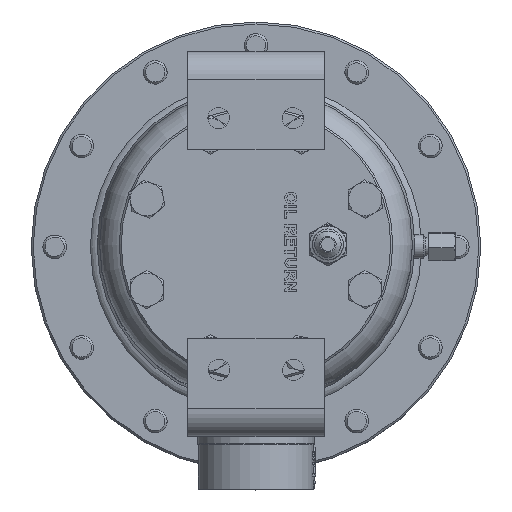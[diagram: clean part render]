
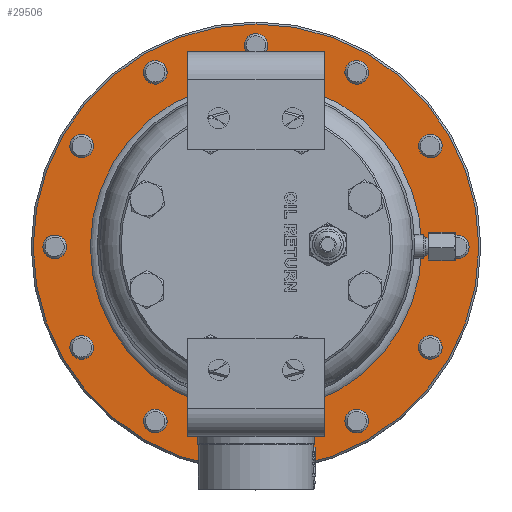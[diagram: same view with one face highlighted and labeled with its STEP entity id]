
A CAD part, top view. The second image highlights one B-rep face of the part: STEP entity #29506.
In plain terms, the highlighted planar face has unit normal (0, 0, 1).
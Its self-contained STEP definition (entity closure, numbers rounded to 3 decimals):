
#6245=PLANE('',#31358);
#7459=FACE_BOUND('',#9610,.T.);
#7460=FACE_BOUND('',#9611,.T.);
#7461=FACE_BOUND('',#9612,.T.);
#7462=FACE_BOUND('',#9613,.T.);
#7463=FACE_BOUND('',#9614,.T.);
#7464=FACE_BOUND('',#9615,.T.);
#7465=FACE_BOUND('',#9616,.T.);
#7466=FACE_BOUND('',#9617,.T.);
#7467=FACE_BOUND('',#9618,.T.);
#7468=FACE_BOUND('',#9619,.T.);
#7469=FACE_BOUND('',#9620,.T.);
#7470=FACE_BOUND('',#9621,.T.);
#7471=FACE_BOUND('',#9622,.T.);
#7767=FACE_OUTER_BOUND('',#9609,.T.);
#9609=EDGE_LOOP('',(#20180));
#9610=EDGE_LOOP('',(#20181));
#9611=EDGE_LOOP('',(#20182));
#9612=EDGE_LOOP('',(#20183));
#9613=EDGE_LOOP('',(#20184));
#9614=EDGE_LOOP('',(#20185));
#9615=EDGE_LOOP('',(#20186));
#9616=EDGE_LOOP('',(#20187));
#9617=EDGE_LOOP('',(#20188));
#9618=EDGE_LOOP('',(#20189));
#9619=EDGE_LOOP('',(#20190));
#9620=EDGE_LOOP('',(#20191));
#9621=EDGE_LOOP('',(#20192));
#9622=EDGE_LOOP('',(#20193));
#11746=CIRCLE('',#31359,114.);
#11747=CIRCLE('',#31360,6.);
#11748=CIRCLE('',#31361,6.);
#11749=CIRCLE('',#31362,6.);
#11750=CIRCLE('',#31363,6.);
#11751=CIRCLE('',#31364,6.);
#11752=CIRCLE('',#31365,6.);
#11753=CIRCLE('',#31366,6.);
#11754=CIRCLE('',#31367,6.);
#11755=CIRCLE('',#31368,6.);
#11756=CIRCLE('',#31369,6.);
#11757=CIRCLE('',#31370,6.);
#11758=CIRCLE('',#31371,6.);
#11759=CIRCLE('',#31372,84.767);
#12571=VERTEX_POINT('',#41559);
#12572=VERTEX_POINT('',#41561);
#12573=VERTEX_POINT('',#41563);
#12574=VERTEX_POINT('',#41565);
#12575=VERTEX_POINT('',#41567);
#12576=VERTEX_POINT('',#41569);
#12577=VERTEX_POINT('',#41571);
#12578=VERTEX_POINT('',#41573);
#12579=VERTEX_POINT('',#41575);
#12580=VERTEX_POINT('',#41577);
#12581=VERTEX_POINT('',#41579);
#12582=VERTEX_POINT('',#41581);
#12583=VERTEX_POINT('',#41583);
#12584=VERTEX_POINT('',#41585);
#15604=EDGE_CURVE('',#12571,#12571,#11746,.T.);
#15605=EDGE_CURVE('',#12572,#12572,#11747,.T.);
#15606=EDGE_CURVE('',#12573,#12573,#11748,.T.);
#15607=EDGE_CURVE('',#12574,#12574,#11749,.T.);
#15608=EDGE_CURVE('',#12575,#12575,#11750,.T.);
#15609=EDGE_CURVE('',#12576,#12576,#11751,.T.);
#15610=EDGE_CURVE('',#12577,#12577,#11752,.T.);
#15611=EDGE_CURVE('',#12578,#12578,#11753,.T.);
#15612=EDGE_CURVE('',#12579,#12579,#11754,.T.);
#15613=EDGE_CURVE('',#12580,#12580,#11755,.T.);
#15614=EDGE_CURVE('',#12581,#12581,#11756,.T.);
#15615=EDGE_CURVE('',#12582,#12582,#11757,.T.);
#15616=EDGE_CURVE('',#12583,#12583,#11758,.T.);
#15617=EDGE_CURVE('',#12584,#12584,#11759,.T.);
#20180=ORIENTED_EDGE('',*,*,#15604,.F.);
#20181=ORIENTED_EDGE('',*,*,#15605,.T.);
#20182=ORIENTED_EDGE('',*,*,#15606,.T.);
#20183=ORIENTED_EDGE('',*,*,#15607,.T.);
#20184=ORIENTED_EDGE('',*,*,#15608,.T.);
#20185=ORIENTED_EDGE('',*,*,#15609,.T.);
#20186=ORIENTED_EDGE('',*,*,#15610,.T.);
#20187=ORIENTED_EDGE('',*,*,#15611,.T.);
#20188=ORIENTED_EDGE('',*,*,#15612,.T.);
#20189=ORIENTED_EDGE('',*,*,#15613,.T.);
#20190=ORIENTED_EDGE('',*,*,#15614,.T.);
#20191=ORIENTED_EDGE('',*,*,#15615,.T.);
#20192=ORIENTED_EDGE('',*,*,#15616,.T.);
#20193=ORIENTED_EDGE('',*,*,#15617,.T.);
#29506=ADVANCED_FACE('',(#7767,#7459,#7460,#7461,#7462,#7463,#7464,#7465,
#7466,#7467,#7468,#7469,#7470,#7471),#6245,.F.);
#31358=AXIS2_PLACEMENT_3D('',#41558,#34088,#34089);
#31359=AXIS2_PLACEMENT_3D('',#41560,#34090,#34091);
#31360=AXIS2_PLACEMENT_3D('',#41562,#34092,#34093);
#31361=AXIS2_PLACEMENT_3D('',#41564,#34094,#34095);
#31362=AXIS2_PLACEMENT_3D('',#41566,#34096,#34097);
#31363=AXIS2_PLACEMENT_3D('',#41568,#34098,#34099);
#31364=AXIS2_PLACEMENT_3D('',#41570,#34100,#34101);
#31365=AXIS2_PLACEMENT_3D('',#41572,#34102,#34103);
#31366=AXIS2_PLACEMENT_3D('',#41574,#34104,#34105);
#31367=AXIS2_PLACEMENT_3D('',#41576,#34106,#34107);
#31368=AXIS2_PLACEMENT_3D('',#41578,#34108,#34109);
#31369=AXIS2_PLACEMENT_3D('',#41580,#34110,#34111);
#31370=AXIS2_PLACEMENT_3D('',#41582,#34112,#34113);
#31371=AXIS2_PLACEMENT_3D('',#41584,#34114,#34115);
#31372=AXIS2_PLACEMENT_3D('',#41586,#34116,#34117);
#34088=DIRECTION('center_axis',(0.,0.,
-1.));
#34089=DIRECTION('ref_axis',(1.,0.,0.));
#34090=DIRECTION('center_axis',(0.,0.,
-1.));
#34091=DIRECTION('ref_axis',(1.,0.,0.));
#34092=DIRECTION('center_axis',(0.,0.,
-1.));
#34093=DIRECTION('ref_axis',(1.,0.,0.));
#34094=DIRECTION('center_axis',(0.,0.,
-1.));
#34095=DIRECTION('ref_axis',(0.866,-0.5,0.));
#34096=DIRECTION('center_axis',(0.,0.,
-1.));
#34097=DIRECTION('ref_axis',(0.5,-0.866,0.));
#34098=DIRECTION('center_axis',(0.,0.,
-1.));
#34099=DIRECTION('ref_axis',(0.,-1.,0.));
#34100=DIRECTION('center_axis',(0.,0.,
-1.));
#34101=DIRECTION('ref_axis',(-0.5,-0.866,0.));
#34102=DIRECTION('center_axis',(0.,0.,
-1.));
#34103=DIRECTION('ref_axis',(-0.866,-0.5,0.));
#34104=DIRECTION('center_axis',(0.,0.,
-1.));
#34105=DIRECTION('ref_axis',(-1.,0.,0.));
#34106=DIRECTION('center_axis',(0.,0.,
-1.));
#34107=DIRECTION('ref_axis',(-0.866,0.5,0.));
#34108=DIRECTION('center_axis',(0.,0.,
-1.));
#34109=DIRECTION('ref_axis',(-0.5,0.866,0.));
#34110=DIRECTION('center_axis',(0.,0.,
-1.));
#34111=DIRECTION('ref_axis',(0.,1.,0.));
#34112=DIRECTION('center_axis',(0.,0.,
-1.));
#34113=DIRECTION('ref_axis',(0.5,0.866,0.));
#34114=DIRECTION('center_axis',(0.,0.,
-1.));
#34115=DIRECTION('ref_axis',(0.866,0.5,0.));
#34116=DIRECTION('center_axis',(0.,0.,
-1.));
#34117=DIRECTION('ref_axis',(0.,1.,0.));
#41558=CARTESIAN_POINT('Origin',(0.,0.,
-476.));
#41559=CARTESIAN_POINT('',(-114.,0.,-476.));
#41560=CARTESIAN_POINT('Origin',(0.,0.,
-476.));
#41561=CARTESIAN_POINT('',(-6.,-103.,-476.));
#41562=CARTESIAN_POINT('Origin',(0.,-103.,-476.));
#41563=CARTESIAN_POINT('',(-56.696,-86.201,-476.));
#41564=CARTESIAN_POINT('Origin',(-51.5,-89.201,-476.));
#41565=CARTESIAN_POINT('',(-92.201,-46.304,-476.));
#41566=CARTESIAN_POINT('Origin',(-89.201,-51.5,-476.));
#41567=CARTESIAN_POINT('',(-103.,6.,-476.));
#41568=CARTESIAN_POINT('Origin',(-103.,0.,
-476.));
#41569=CARTESIAN_POINT('',(-86.201,56.696,-476.));
#41570=CARTESIAN_POINT('Origin',(-89.201,51.5,-476.));
#41571=CARTESIAN_POINT('',(-46.304,92.201,-476.));
#41572=CARTESIAN_POINT('Origin',(-51.5,89.201,-476.));
#41573=CARTESIAN_POINT('',(6.,103.,-476.));
#41574=CARTESIAN_POINT('Origin',(0.,103.,-476.));
#41575=CARTESIAN_POINT('',(56.696,86.201,-476.));
#41576=CARTESIAN_POINT('Origin',(51.5,89.201,-476.));
#41577=CARTESIAN_POINT('',(92.201,46.304,-476.));
#41578=CARTESIAN_POINT('Origin',(89.201,51.5,-476.));
#41579=CARTESIAN_POINT('',(103.,-6.,-476.));
#41580=CARTESIAN_POINT('Origin',(103.,0.,
-476.));
#41581=CARTESIAN_POINT('',(86.201,-56.696,-476.));
#41582=CARTESIAN_POINT('Origin',(89.201,-51.5,-476.));
#41583=CARTESIAN_POINT('',(46.304,-92.201,-476.));
#41584=CARTESIAN_POINT('Origin',(51.5,-89.201,-476.));
#41585=CARTESIAN_POINT('',(0.,84.767,-476.));
#41586=CARTESIAN_POINT('Origin',(0.,0.,
-476.));
